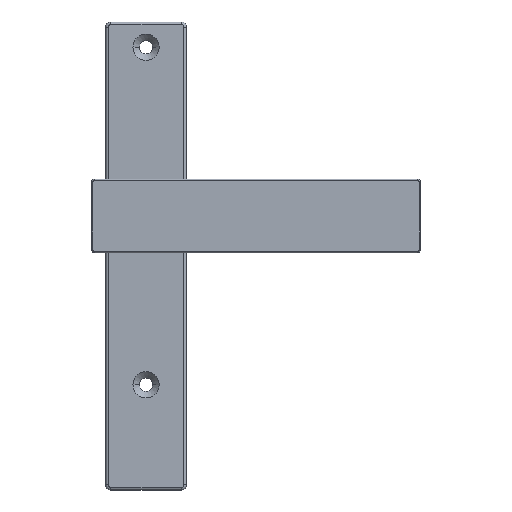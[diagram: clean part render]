
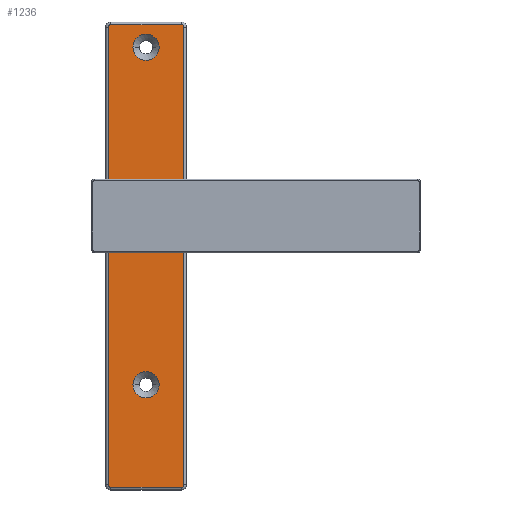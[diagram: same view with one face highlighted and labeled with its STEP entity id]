
A CAD part, top view. The second image highlights one B-rep face of the part: STEP entity #1236.
In plain terms, the highlighted planar face has unit normal (0, 0, 1).
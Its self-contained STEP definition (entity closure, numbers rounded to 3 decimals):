
#107 = ORIENTED_EDGE ( 'NONE', *, *, #284, .T. ) ;
#207 = CARTESIAN_POINT ( 'NONE',  ( -94.172, -89.988, 43.907 ) ) ;
#284 = EDGE_CURVE ( 'NONE', #5734, #3273, #7698, .T. ) ;
#359 = ORIENTED_EDGE ( 'NONE', *, *, #402, .T. ) ;
#402 = EDGE_CURVE ( 'NONE', #4866, #8148, #1167, .T. ) ;
#484 = DIRECTION ( 'NONE',  ( 1., 0., 0. ) ) ;
#515 = AXIS2_PLACEMENT_3D ( 'NONE', #5142, #8110, #2628 ) ;
#668 = CARTESIAN_POINT ( 'NONE',  ( -65.172, -89.988, 43.907 ) ) ;
#729 = DIRECTION ( 'NONE',  ( 1., 0., 0. ) ) ;
#784 = CARTESIAN_POINT ( 'NONE',  ( -95.172, -89.988, 43.907 ) ) ;
#788 = DIRECTION ( 'NONE',  ( 1., 0., 0. ) ) ;
#861 = CIRCLE ( 'NONE', #7155, 5.2 ) ;
#888 = CARTESIAN_POINT ( 'NONE',  ( -85.372, 83.162, 43.907 ) ) ;
#1093 = FACE_BOUND ( 'NONE', #7991, .T. ) ;
#1133 = EDGE_CURVE ( 'NONE', #5134, #2759, #9369, .T. ) ;
#1167 = CIRCLE ( 'NONE', #3291, 1. ) ;
#1188 = EDGE_CURVE ( 'NONE', #2759, #5134, #8415, .T. ) ;
#1236 = ADVANCED_FACE ( 'NONE', ( #8014, #1093, #6552, #4186 ), #9710, .T. ) ;
#1264 = LINE ( 'NONE', #5158, #8024 ) ;
#1293 = EDGE_CURVE ( 'NONE', #2129, #4979, #4553, .T. ) ;
#1322 = ORIENTED_EDGE ( 'NONE', *, *, #1133, .F. ) ;
#1562 = EDGE_CURVE ( 'NONE', #2706, #3066, #9857, .T. ) ;
#1625 = VERTEX_POINT ( 'NONE', #6637 ) ;
#1792 = VERTEX_POINT ( 'NONE', #668 ) ;
#1913 = ORIENTED_EDGE ( 'NONE', *, *, #1562, .F. ) ;
#2129 = VERTEX_POINT ( 'NONE', #6776 ) ;
#2248 = EDGE_CURVE ( 'NONE', #3273, #1625, #4735, .T. ) ;
#2412 = DIRECTION ( 'NONE',  ( 0., -1., 0. ) ) ;
#2534 = DIRECTION ( 'NONE',  ( 1., 0., 0. ) ) ;
#2541 = ORIENTED_EDGE ( 'NONE', *, *, #2248, .T. ) ;
#2571 = CARTESIAN_POINT ( 'NONE',  ( -80.172, 16.412, 43.907 ) ) ;
#2628 = DIRECTION ( 'NONE',  ( 1., 0., 0. ) ) ;
#2679 = CARTESIAN_POINT ( 'NONE',  ( -80.172, 83.162, 43.907 ) ) ;
#2706 = VERTEX_POINT ( 'NONE', #8813 ) ;
#2719 = ORIENTED_EDGE ( 'NONE', *, *, #4222, .F. ) ;
#2759 = VERTEX_POINT ( 'NONE', #2823 ) ;
#2823 = CARTESIAN_POINT ( 'NONE',  ( -74.972, 83.162, 43.907 ) ) ;
#2825 = CARTESIAN_POINT ( 'NONE',  ( -80.172, 16.412, 43.907 ) ) ;
#2896 = DIRECTION ( 'NONE',  ( -1., 0., 0. ) ) ;
#2905 = LINE ( 'NONE', #8239, #7215 ) ;
#3056 = EDGE_CURVE ( 'NONE', #4979, #2129, #861, .T. ) ;
#3066 = VERTEX_POINT ( 'NONE', #6944 ) ;
#3155 = DIRECTION ( 'NONE',  ( 1., 0., 0. ) ) ;
#3195 = DIRECTION ( 'NONE',  ( 0., 0., 1. ) ) ;
#3269 = AXIS2_PLACEMENT_3D ( 'NONE', #2679, #7257, #484 ) ;
#3273 = VERTEX_POINT ( 'NONE', #8995 ) ;
#3291 = AXIS2_PLACEMENT_3D ( 'NONE', #4681, #3927, #8516 ) ;
#3523 = AXIS2_PLACEMENT_3D ( 'NONE', #7875, #9434, #5711 ) ;
#3632 = EDGE_LOOP ( 'NONE', ( #5172, #8852, #7680, #359, #5817, #8884, #107, #2541 ) ) ;
#3890 = CARTESIAN_POINT ( 'NONE',  ( -85.372, -50.338, 43.907 ) ) ;
#3927 = DIRECTION ( 'NONE',  ( 0., 0., 1. ) ) ;
#3931 = CARTESIAN_POINT ( 'NONE',  ( -66.172, -90.988, 43.907 ) ) ;
#4186 = FACE_BOUND ( 'NONE', #8529, .T. ) ;
#4222 = EDGE_CURVE ( 'NONE', #3066, #2706, #6207, .T. ) ;
#4452 = CIRCLE ( 'NONE', #3523, 1. ) ;
#4535 = DIRECTION ( 'NONE',  ( 1., 0., 0. ) ) ;
#4553 = CIRCLE ( 'NONE', #7759, 5.2 ) ;
#4590 = EDGE_CURVE ( 'NONE', #6972, #5734, #7658, .T. ) ;
#4668 = DIRECTION ( 'NONE',  ( 0., 0., 1. ) ) ;
#4681 = CARTESIAN_POINT ( 'NONE',  ( -66.172, 91.162, 43.907 ) ) ;
#4735 = CIRCLE ( 'NONE', #6335, 1. ) ;
#4866 = VERTEX_POINT ( 'NONE', #8221 ) ;
#4929 = AXIS2_PLACEMENT_3D ( 'NONE', #7809, #3195, #8427 ) ;
#4979 = VERTEX_POINT ( 'NONE', #3890 ) ;
#5051 = DIRECTION ( 'NONE',  ( 0., 0., 1. ) ) ;
#5134 = VERTEX_POINT ( 'NONE', #888 ) ;
#5142 = CARTESIAN_POINT ( 'NONE',  ( -80.172, 83.162, 43.907 ) ) ;
#5158 = CARTESIAN_POINT ( 'NONE',  ( -94.172, 92.162, 43.907 ) ) ;
#5172 = ORIENTED_EDGE ( 'NONE', *, *, #7581, .T. ) ;
#5420 = CARTESIAN_POINT ( 'NONE',  ( -94.172, 92.162, 43.907 ) ) ;
#5637 = DIRECTION ( 'NONE',  ( 0., 0., 1. ) ) ;
#5711 = DIRECTION ( 'NONE',  ( 1., 0., 0. ) ) ;
#5734 = VERTEX_POINT ( 'NONE', #9904 ) ;
#5817 = ORIENTED_EDGE ( 'NONE', *, *, #9267, .T. ) ;
#5868 = DIRECTION ( 'NONE',  ( 0., 1., 0. ) ) ;
#5990 = CARTESIAN_POINT ( 'NONE',  ( -80.172, -50.338, 43.907 ) ) ;
#6046 = LINE ( 'NONE', #3931, #6078 ) ;
#6078 = VECTOR ( 'NONE', #788, 1000. ) ;
#6207 = CIRCLE ( 'NONE', #7652, 6.5 ) ;
#6240 = CARTESIAN_POINT ( 'NONE',  ( -80.172, -50.338, 43.907 ) ) ;
#6335 = AXIS2_PLACEMENT_3D ( 'NONE', #207, #5051, #2534 ) ;
#6552 = FACE_BOUND ( 'NONE', #9300, .T. ) ;
#6637 = CARTESIAN_POINT ( 'NONE',  ( -94.172, -90.988, 43.907 ) ) ;
#6776 = CARTESIAN_POINT ( 'NONE',  ( -74.972, -50.338, 43.907 ) ) ;
#6866 = EDGE_CURVE ( 'NONE', #1792, #4866, #2905, .T. ) ;
#6909 = VERTEX_POINT ( 'NONE', #7624 ) ;
#6944 = CARTESIAN_POINT ( 'NONE',  ( -73.672, 16.412, 43.907 ) ) ;
#6972 = VERTEX_POINT ( 'NONE', #5420 ) ;
#7104 = EDGE_CURVE ( 'NONE', #6909, #1792, #4452, .T. ) ;
#7130 = AXIS2_PLACEMENT_3D ( 'NONE', #2571, #5637, #8710 ) ;
#7155 = AXIS2_PLACEMENT_3D ( 'NONE', #6240, #9903, #729 ) ;
#7215 = VECTOR ( 'NONE', #5868, 1000. ) ;
#7257 = DIRECTION ( 'NONE',  ( 0., 0., 1. ) ) ;
#7446 = AXIS2_PLACEMENT_3D ( 'NONE', #2825, #8960, #8212 ) ;
#7498 = DIRECTION ( 'NONE',  ( 0., 0., 1. ) ) ;
#7581 = EDGE_CURVE ( 'NONE', #1625, #6909, #6046, .T. ) ;
#7624 = CARTESIAN_POINT ( 'NONE',  ( -66.172, -90.988, 43.907 ) ) ;
#7652 = AXIS2_PLACEMENT_3D ( 'NONE', #8591, #4668, #3155 ) ;
#7658 = CIRCLE ( 'NONE', #4929, 1. ) ;
#7680 = ORIENTED_EDGE ( 'NONE', *, *, #6866, .T. ) ;
#7698 = LINE ( 'NONE', #784, #8903 ) ;
#7759 = AXIS2_PLACEMENT_3D ( 'NONE', #5990, #7498, #4535 ) ;
#7780 = ORIENTED_EDGE ( 'NONE', *, *, #1188, .F. ) ;
#7795 = ORIENTED_EDGE ( 'NONE', *, *, #3056, .F. ) ;
#7809 = CARTESIAN_POINT ( 'NONE',  ( -94.172, 91.162, 43.907 ) ) ;
#7875 = CARTESIAN_POINT ( 'NONE',  ( -66.172, -89.988, 43.907 ) ) ;
#7991 = EDGE_LOOP ( 'NONE', ( #7780, #1322 ) ) ;
#8014 = FACE_OUTER_BOUND ( 'NONE', #3632, .T. ) ;
#8024 = VECTOR ( 'NONE', #2896, 1000. ) ;
#8110 = DIRECTION ( 'NONE',  ( 0., 0., 1. ) ) ;
#8148 = VERTEX_POINT ( 'NONE', #8600 ) ;
#8212 = DIRECTION ( 'NONE',  ( 1., 0., 0. ) ) ;
#8221 = CARTESIAN_POINT ( 'NONE',  ( -65.172, 91.162, 43.907 ) ) ;
#8239 = CARTESIAN_POINT ( 'NONE',  ( -65.172, 91.162, 43.907 ) ) ;
#8415 = CIRCLE ( 'NONE', #3269, 5.2 ) ;
#8427 = DIRECTION ( 'NONE',  ( 1., 0., 0. ) ) ;
#8516 = DIRECTION ( 'NONE',  ( 1., 0., 0. ) ) ;
#8529 = EDGE_LOOP ( 'NONE', ( #1913, #2719 ) ) ;
#8591 = CARTESIAN_POINT ( 'NONE',  ( -80.172, 16.412, 43.907 ) ) ;
#8600 = CARTESIAN_POINT ( 'NONE',  ( -66.172, 92.162, 43.907 ) ) ;
#8710 = DIRECTION ( 'NONE',  ( 1., 0., 0. ) ) ;
#8813 = CARTESIAN_POINT ( 'NONE',  ( -86.672, 16.412, 43.907 ) ) ;
#8852 = ORIENTED_EDGE ( 'NONE', *, *, #7104, .T. ) ;
#8884 = ORIENTED_EDGE ( 'NONE', *, *, #4590, .T. ) ;
#8903 = VECTOR ( 'NONE', #2412, 1000. ) ;
#8960 = DIRECTION ( 'NONE',  ( 0., 0., 1. ) ) ;
#8995 = CARTESIAN_POINT ( 'NONE',  ( -95.172, -89.988, 43.907 ) ) ;
#9267 = EDGE_CURVE ( 'NONE', #8148, #6972, #1264, .T. ) ;
#9300 = EDGE_LOOP ( 'NONE', ( #9939, #7795 ) ) ;
#9369 = CIRCLE ( 'NONE', #515, 5.2 ) ;
#9434 = DIRECTION ( 'NONE',  ( 0., 0., 1. ) ) ;
#9710 = PLANE ( 'NONE',  #7446 ) ;
#9857 = CIRCLE ( 'NONE', #7130, 6.5 ) ;
#9903 = DIRECTION ( 'NONE',  ( 0., 0., 1. ) ) ;
#9904 = CARTESIAN_POINT ( 'NONE',  ( -95.172, 91.162, 43.907 ) ) ;
#9939 = ORIENTED_EDGE ( 'NONE', *, *, #1293, .F. ) ;
